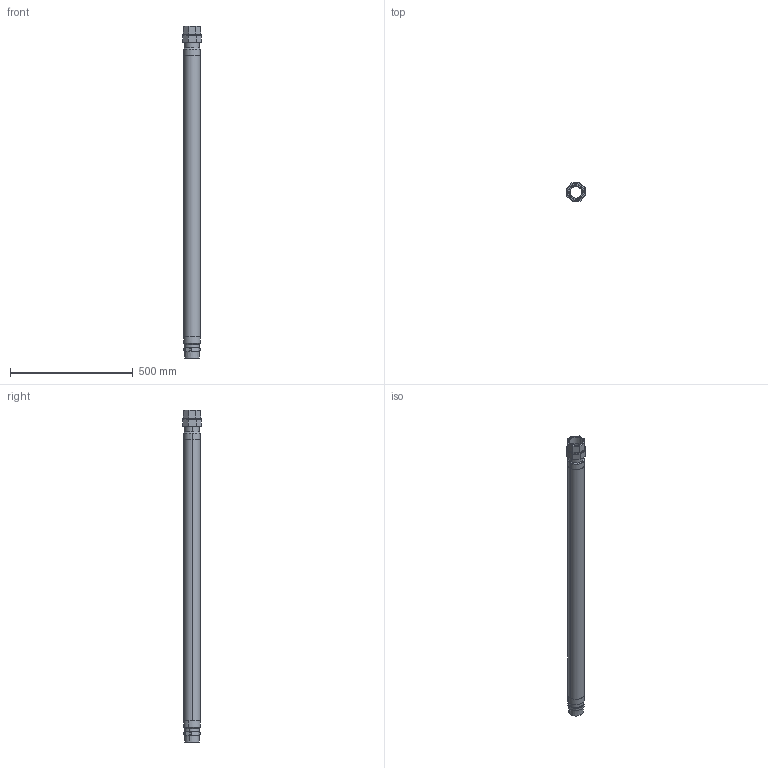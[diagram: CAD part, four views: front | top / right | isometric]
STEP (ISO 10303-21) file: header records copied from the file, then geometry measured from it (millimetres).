
FILE_DESCRIPTION (( 'STEP AP203' ), '1' );
FILE_NAME ('KP_T50-12S.step', '2011-08-08T11:46:57', ( '' ), ( '' ), 'SwSTEP 2.0', 'SolidWorks 2011', '' );
FILE_SCHEMA (( 'CONFIG_CONTROL_DESIGN' ));
Length unit declared in the file: millimetre
Products named in the file (1): KP_T50-12S
Bounding box: 76.14 x 76.14 x 1353.8 mm (x, y, z)
Volume: 2015566.3 mm3; surface area: 519630.1 mm2
Topology: 1 solids, 1 shells, 154 faces, 336 edges, 193 vertices
Faces by surface type: plane 63, cylinder 55, sphere 18, cone 14, torus 4
Entity records: 4700 total; most frequent: CARTESIAN_POINT 1298, DIRECTION 729, ORIENTED_EDGE 656, EDGE_CURVE 328, AXIS2_PLACEMENT_3D 274, VERTEX_POINT 189, LINE 181, VECTOR 181
